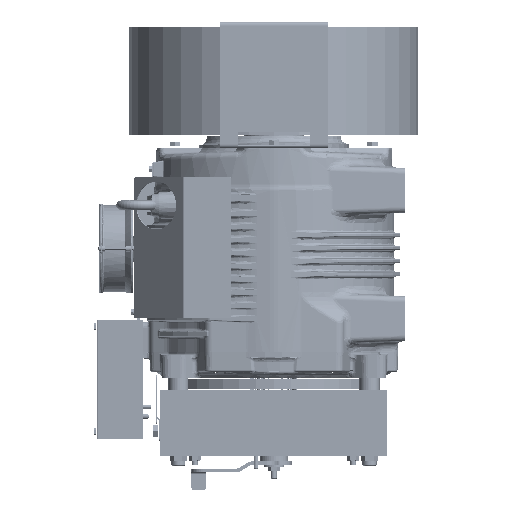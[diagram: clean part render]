
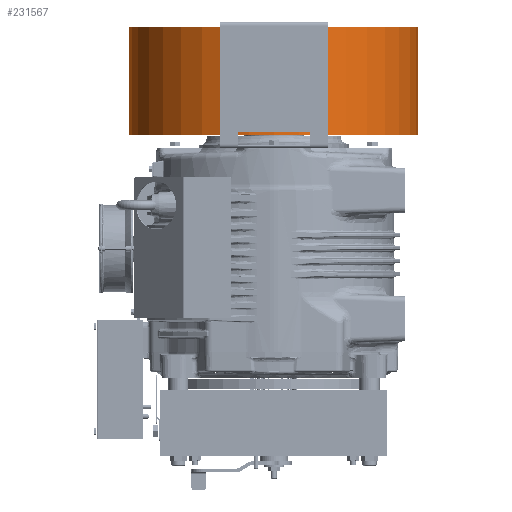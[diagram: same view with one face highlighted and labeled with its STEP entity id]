
A CAD part, left-side view. The second image highlights one B-rep face of the part: STEP entity #231567.
In plain terms, the highlighted cylindrical face has radius 242 mm (diameter 484 mm), a partial arc.
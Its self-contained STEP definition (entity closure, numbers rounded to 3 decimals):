
#199433=CARTESIAN_POINT('',(0.,0.,79.));
#199434=DIRECTION('',(0.,0.,-1.));
#199435=DIRECTION('',(0.,1.,0.));
#199436=AXIS2_PLACEMENT_3D('',#199433,#199434,#199435);
#199451=DIRECTION('',(0.,0.,1.));
#199452=VECTOR('',#199451,180.);
#199453=CARTESIAN_POINT('',(0.,242.,-101.));
#199454=LINE('',#199453,#199452);
#199484=CARTESIAN_POINT('',(0.,0.,-101.));
#199485=DIRECTION('',(0.,0.,1.));
#199486=DIRECTION('',(0.,-1.,0.));
#199487=AXIS2_PLACEMENT_3D('',#199484,#199485,#199486);
#199493=DIRECTION('',(0.,0.,1.));
#199494=VECTOR('',#199493,180.);
#199495=CARTESIAN_POINT('',(0.,-242.,-101.));
#199496=LINE('',#199495,#199494);
#213358=CARTESIAN_POINT('',(0.,242.,79.));
#213359=VERTEX_POINT('',#213358);
#213360=CARTESIAN_POINT('',(0.,-242.,79.));
#213361=VERTEX_POINT('',#213360);
#213362=CARTESIAN_POINT('',(0.,242.,-101.));
#213363=CARTESIAN_POINT('',(0.,-242.,-101.));
#213364=VERTEX_POINT('',#213362);
#213365=VERTEX_POINT('',#213363);
#231556=CARTESIAN_POINT('',(0.,0.,0.));
#231557=DIRECTION('',(0.,0.,1.));
#231558=DIRECTION('',(0.,1.,0.));
#231559=AXIS2_PLACEMENT_3D('',#231556,#231557,#231558);
#231560=CYLINDRICAL_SURFACE('',#231559,242.);
#231561=ORIENTED_EDGE('',*,*,#231550,.F.);
#231562=ORIENTED_EDGE('',*,*,#231502,.T.);
#231563=ORIENTED_EDGE('',*,*,#231472,.F.);
#231564=ORIENTED_EDGE('',*,*,#231499,.F.);
#231565=EDGE_LOOP('',(#231561,#231562,#231563,#231564));
#231566=FACE_OUTER_BOUND('',#231565,.F.);
#231567=ADVANCED_FACE('',(#231566),#231560,.T.);
#199437=CIRCLE('',#199436,242.);
#199488=CIRCLE('',#199487,242.);
#231472=EDGE_CURVE('',#213359,#213361,#199437,.T.);
#231499=EDGE_CURVE('',#213364,#213359,#199454,.T.);
#231502=EDGE_CURVE('',#213365,#213361,#199496,.T.);
#231550=EDGE_CURVE('',#213365,#213364,#199488,.T.);
